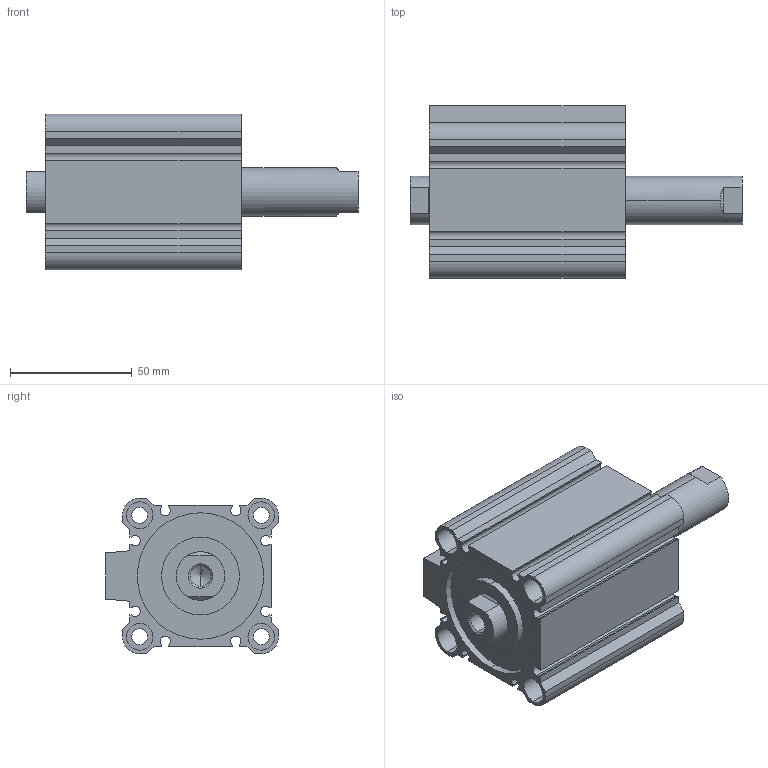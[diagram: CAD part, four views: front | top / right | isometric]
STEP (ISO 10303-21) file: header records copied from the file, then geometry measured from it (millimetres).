
FILE_DESCRIPTION (( 'STEP AP203' ), '1' );
FILE_NAME ('CCMB50-40F-P.STEP', '2020-08-05T11:27:58', ( '' ), ( '' ), 'SwSTEP 2.0', 'SolidWorks 2019', '' );
FILE_SCHEMA (( 'CONFIG_CONTROL_DESIGN' ));
Length unit declared in the file: millimetre
Products named in the file (1): CCMB50-40F-P
Bounding box: 136.5 x 71 x 64 mm (x, y, z)
Volume: 217709.6 mm3; surface area: 72637.9 mm2
Topology: 2 solids, 2 shells, 164 faces, 414 edges, 270 vertices
Faces by surface type: plane 78, cylinder 74, cone 12
Entity records: 5025 total; most frequent: DIRECTION 888, CARTESIAN_POINT 869, ORIENTED_EDGE 820, EDGE_CURVE 410, AXIS2_PLACEMENT_3D 321, VERTEX_POINT 270, LINE 246, VECTOR 246
